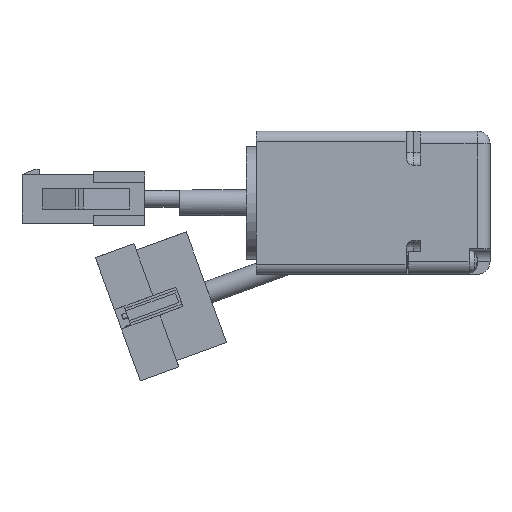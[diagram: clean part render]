
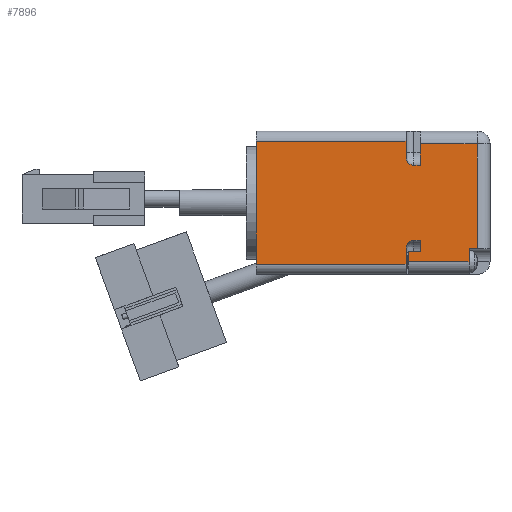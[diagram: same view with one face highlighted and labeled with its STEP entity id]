
A CAD part, front view. The second image highlights one B-rep face of the part: STEP entity #7896.
In plain terms, the highlighted planar face has unit normal (0, -1, 0).
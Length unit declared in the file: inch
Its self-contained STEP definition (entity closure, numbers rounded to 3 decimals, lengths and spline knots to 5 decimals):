
#403=LINE('',#12474,#1129);
#409=LINE('',#12490,#1135);
#412=LINE('',#12505,#1138);
#604=LINE('',#13049,#1330);
#618=LINE('',#13167,#1344);
#631=LINE('',#13193,#1357);
#633=LINE('',#13197,#1359);
#656=LINE('',#13247,#1382);
#662=LINE('',#13259,#1388);
#672=LINE('',#13347,#1398);
#675=LINE('',#13360,#1401);
#690=LINE('',#13404,#1416);
#696=LINE('',#13419,#1422);
#697=LINE('',#13422,#1423);
#698=LINE('',#13424,#1424);
#699=LINE('',#13427,#1425);
#1129=VECTOR('',#9889,0.06299);
#1135=VECTOR('',#9905,0.09843);
#1138=VECTOR('',#9926,0.80709);
#1330=VECTOR('',#10470,0.16339);
#1344=VECTOR('',#10602,0.08465);
#1357=VECTOR('',#10631,0.43701);
#1359=VECTOR('',#10635,0.4685);
#1382=VECTOR('',#10704,0.07874);
#1388=VECTOR('',#10718,0.09449);
#1398=VECTOR('',#10828,1.14961);
#1401=VECTOR('',#10839,1.14961);
#1416=VECTOR('',#10880,0.94488);
#1422=VECTOR('',#10894,0.05118);
#1423=VECTOR('',#10897,0.12402);
#1424=VECTOR('',#10898,0.12402);
#1425=VECTOR('',#10901,0.05118);
#2047=FACE_OUTER_BOUND('',#2802,.T.);
#2802=EDGE_LOOP('',(#6960,#6961,#6962,#6963,#6964,#6965,#6966,#6967,#6968,
#6969,#6970,#6971,#6972,#6973,#6974,#6975,#6976,#6977));
#3161=CIRCLE('',#8680,0.05906);
#3162=CIRCLE('',#8681,0.05906);
#3585=VERTEX_POINT('',#12471);
#3586=VERTEX_POINT('',#12473);
#3591=VERTEX_POINT('',#12489);
#3594=VERTEX_POINT('',#12501);
#3768=VERTEX_POINT('',#13045);
#3770=VERTEX_POINT('',#13048);
#3814=VERTEX_POINT('',#13164);
#3815=VERTEX_POINT('',#13166);
#3821=VERTEX_POINT('',#13196);
#3825=VERTEX_POINT('',#13246);
#3854=VERTEX_POINT('',#13345);
#3855=VERTEX_POINT('',#13346);
#3860=VERTEX_POINT('',#13357);
#3861=VERTEX_POINT('',#13359);
#3882=VERTEX_POINT('',#13418);
#3883=VERTEX_POINT('',#13420);
#3884=VERTEX_POINT('',#13423);
#3885=VERTEX_POINT('',#13425);
#4478=EDGE_CURVE('',#3586,#3585,#403,.T.);
#4486=EDGE_CURVE('',#3586,#3591,#409,.T.);
#4494=EDGE_CURVE('',#3585,#3594,#412,.T.);
#4762=EDGE_CURVE('',#3770,#3768,#604,.T.);
#4813=EDGE_CURVE('',#3815,#3814,#618,.T.);
#4828=EDGE_CURVE('',#3594,#3770,#631,.T.);
#4830=EDGE_CURVE('',#3591,#3821,#633,.T.);
#4854=EDGE_CURVE('',#3821,#3825,#656,.T.);
#4861=EDGE_CURVE('',#3825,#3814,#662,.T.);
#4893=EDGE_CURVE('',#3854,#3855,#672,.T.);
#4899=EDGE_CURVE('',#3861,#3860,#675,.T.);
#4921=EDGE_CURVE('',#3861,#3855,#690,.T.);
#4929=EDGE_CURVE('',#3882,#3768,#696,.T.);
#4930=EDGE_CURVE('',#3882,#3883,#3161,.T.);
#4931=EDGE_CURVE('',#3854,#3883,#697,.T.);
#4932=EDGE_CURVE('',#3884,#3860,#698,.T.);
#4933=EDGE_CURVE('',#3884,#3885,#3162,.T.);
#4934=EDGE_CURVE('',#3885,#3815,#699,.T.);
#6960=ORIENTED_EDGE('',*,*,#4929,.F.);
#6961=ORIENTED_EDGE('',*,*,#4930,.T.);
#6962=ORIENTED_EDGE('',*,*,#4931,.F.);
#6963=ORIENTED_EDGE('',*,*,#4893,.T.);
#6964=ORIENTED_EDGE('',*,*,#4921,.F.);
#6965=ORIENTED_EDGE('',*,*,#4899,.T.);
#6966=ORIENTED_EDGE('',*,*,#4932,.F.);
#6967=ORIENTED_EDGE('',*,*,#4933,.T.);
#6968=ORIENTED_EDGE('',*,*,#4934,.T.);
#6969=ORIENTED_EDGE('',*,*,#4813,.T.);
#6970=ORIENTED_EDGE('',*,*,#4861,.F.);
#6971=ORIENTED_EDGE('',*,*,#4854,.F.);
#6972=ORIENTED_EDGE('',*,*,#4830,.F.);
#6973=ORIENTED_EDGE('',*,*,#4486,.F.);
#6974=ORIENTED_EDGE('',*,*,#4478,.T.);
#6975=ORIENTED_EDGE('',*,*,#4494,.T.);
#6976=ORIENTED_EDGE('',*,*,#4828,.T.);
#6977=ORIENTED_EDGE('',*,*,#4762,.T.);
#7444=PLANE('',#8679);
#7896=ADVANCED_FACE('',(#2047),#7444,.F.);
#8679=AXIS2_PLACEMENT_3D('',#13417,#10892,#10893);
#8680=AXIS2_PLACEMENT_3D('',#13421,#10895,#10896);
#8681=AXIS2_PLACEMENT_3D('',#13426,#10899,#10900);
#9889=DIRECTION('',(1.,0.,0.));
#9905=DIRECTION('',(0.,0.,-1.));
#9926=DIRECTION('',(0.,0.,1.));
#10470=DIRECTION('',(0.,0.,-1.));
#10602=DIRECTION('',(0.,0.,-1.));
#10631=DIRECTION('',(-1.,0.,0.));
#10635=DIRECTION('',(-1.,0.,0.));
#10704=DIRECTION('',(0.,0.,1.));
#10718=DIRECTION('',(1.,0.,0.));
#10828=DIRECTION('',(-1.,0.,0.));
#10839=DIRECTION('',(1.,0.,0.));
#10880=DIRECTION('',(0.,0.,1.));
#10892=DIRECTION('center_axis',(0.,1.,0.));
#10893=DIRECTION('ref_axis',(-1.,0.,0.));
#10894=DIRECTION('',(1.,0.,0.));
#10895=DIRECTION('center_axis',(0.,1.,0.));
#10896=DIRECTION('ref_axis',(-1.,0.,0.));
#10897=DIRECTION('',(0.,0.,-1.));
#10898=DIRECTION('',(0.,0.,-1.));
#10899=DIRECTION('center_axis',(0.,1.,0.));
#10900=DIRECTION('ref_axis',(-1.,0.,0.));
#10901=DIRECTION('',(1.,0.,0.));
#12471=CARTESIAN_POINT('',(0.43701,-0.55765,-0.37298));
#12473=CARTESIAN_POINT('',(0.37402,-0.55765,-0.37298));
#12474=CARTESIAN_POINT('',(0.37402,-0.55765,-0.37298));
#12489=CARTESIAN_POINT('',(0.37402,-0.55765,-0.47141));
#12490=CARTESIAN_POINT('',(0.37402,-0.55765,-0.37298));
#12501=CARTESIAN_POINT('',(0.43701,-0.55765,0.4341));
#12505=CARTESIAN_POINT('',(0.43701,-0.55765,0.4341));
#13045=CARTESIAN_POINT('',(0.,-0.55765,0.27072));
#13048=CARTESIAN_POINT('',(0.,-0.55765,0.4341));
#13049=CARTESIAN_POINT('',(0.,-0.55765,0.85003));
#13164=CARTESIAN_POINT('',(0.,-0.55765,-0.39267));
#13166=CARTESIAN_POINT('',(0.,-0.55765,-0.30802));
#13167=CARTESIAN_POINT('',(0.,-0.55765,0.85003));
#13193=CARTESIAN_POINT('',(0.53543,-0.55765,0.4341));
#13196=CARTESIAN_POINT('',(-0.09449,-0.55765,-0.47141));
#13197=CARTESIAN_POINT('',(0.53543,-0.55765,-0.47141));
#13246=CARTESIAN_POINT('',(-0.09449,-0.55765,-0.39267));
#13247=CARTESIAN_POINT('',(-0.09449,-0.55765,-0.47141));
#13259=CARTESIAN_POINT('',(-0.09449,-0.55765,-0.39267));
#13345=CARTESIAN_POINT('',(-0.11024,-0.55765,0.45379));
#13346=CARTESIAN_POINT('',(-1.25984,-0.55765,0.45379));
#13347=CARTESIAN_POINT('',(-1.25984,-0.55765,0.45379));
#13357=CARTESIAN_POINT('',(-0.11024,-0.55765,-0.49109));
#13359=CARTESIAN_POINT('',(-1.25984,-0.55765,-0.49109));
#13360=CARTESIAN_POINT('',(-1.25984,-0.55765,-0.49109));
#13404=CARTESIAN_POINT('',(-1.25984,-0.55765,-0.56983));
#13417=CARTESIAN_POINT('Origin',(-1.25984,-0.55765,-0.56983));
#13418=CARTESIAN_POINT('',(-0.05118,-0.55765,0.27072));
#13419=CARTESIAN_POINT('',(-0.11024,-0.55765,0.27072));
#13420=CARTESIAN_POINT('',(-0.11024,-0.55765,0.32977));
#13421=CARTESIAN_POINT('Origin',(-0.05118,-0.55765,
0.32977));
#13422=CARTESIAN_POINT('',(-0.11024,-0.55765,0.27072));
#13423=CARTESIAN_POINT('',(-0.11024,-0.55765,-0.36708));
#13424=CARTESIAN_POINT('',(-0.11024,-0.55765,-0.30802));
#13425=CARTESIAN_POINT('',(-0.05118,-0.55765,-0.30802));
#13426=CARTESIAN_POINT('Origin',(-0.05118,-0.55765,
-0.36708));
#13427=CARTESIAN_POINT('',(-0.11024,-0.55765,-0.30802));
